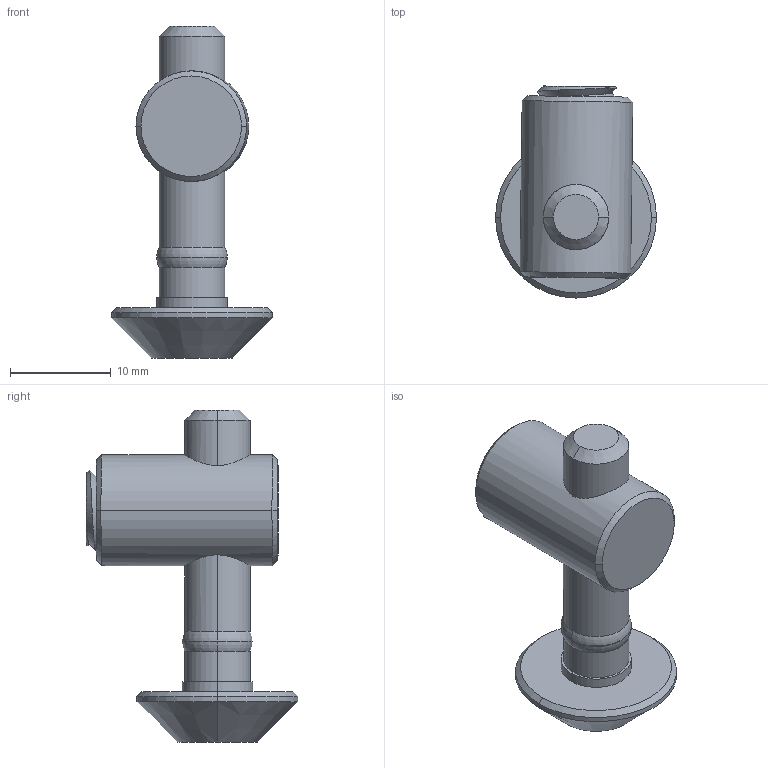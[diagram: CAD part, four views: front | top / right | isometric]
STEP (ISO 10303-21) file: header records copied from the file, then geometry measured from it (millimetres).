
FILE_DESCRIPTION (( 'STEP AP203' ), '1' );
FILE_NAME ('5215.STEP', '2016-04-10T13:02:53', ( '' ), ( '' ), 'SwSTEP 2.0', 'SolidWorks 2014', '' );
FILE_SCHEMA (( 'CONFIG_CONTROL_DESIGN' ));
Length unit declared in the file: millimetre
Products named in the file (4): 鍔錓; Ãàéêà óäåðæèâàþùàÿ Ì8 îòâ 6.5; Âèíò Ì8 õ 10; 5215
Assembly tree (3 placements, depth 2):
  5215
    鍔錓
    Ãàéêà óäåðæèâàþùàÿ Ì8 îòâ 6.5
    Âèíò Ì8 õ 10
Bounding box: 16 x 21.04 x 33 mm (x, y, z)
Volume: 2689.9 mm3; surface area: 2628.2 mm2
Topology: 3 solids, 3 shells, 65 faces, 152 edges, 94 vertices
Faces by surface type: cylinder 18, plane 16, bspline 15, cone 12, torus 4
Entity records: 7430 total; most frequent: CARTESIAN_POINT 5698, ORIENTED_EDGE 300, DIRECTION 243, EDGE_CURVE 150, AXIS2_PLACEMENT_3D 97, VERTEX_POINT 94, EDGE_LOOP 72, ADVANCED_FACE 65
